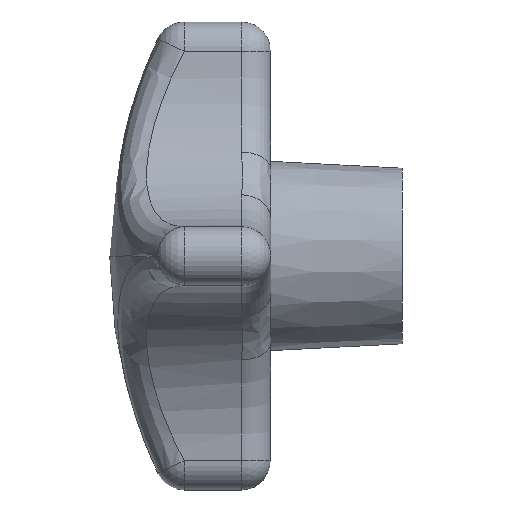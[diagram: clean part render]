
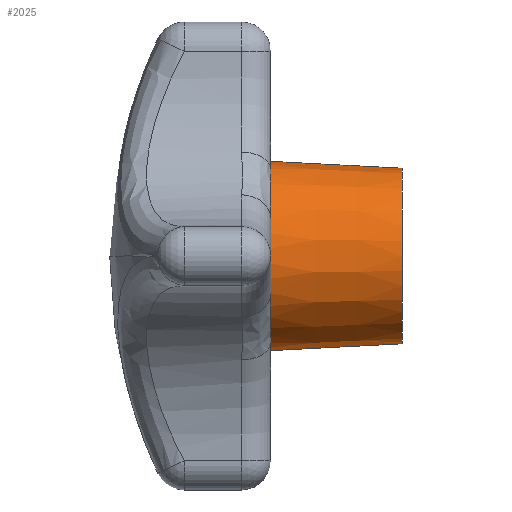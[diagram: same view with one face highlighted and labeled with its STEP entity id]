
A CAD part, left-side view. The second image highlights one B-rep face of the part: STEP entity #2025.
In plain terms, the highlighted conical face has half-angle 3 degrees and reference radius 6 mm.
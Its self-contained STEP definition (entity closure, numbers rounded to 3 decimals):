
#1252 = CARTESIAN_POINT ( 'NONE',  ( -2.546, 0., -5.95 ) ) ;
#1321 = LINE ( 'NONE', #1387, #1386 ) ;
#1322 = CARTESIAN_POINT ( 'NONE',  ( 0., 0., 6.472 ) ) ;
#1372 = CARTESIAN_POINT ( 'NONE',  ( 0., 0., -6.472 ) ) ;
#1373 = DIRECTION ( 'NONE',  ( 0., 0.999, -0.052 ) ) ;
#1374 = VECTOR ( 'NONE', #1373, 1000. ) ;
#1375 = CARTESIAN_POINT ( 'NONE',  ( 0., -9., -6. ) ) ;
#1376 = LINE ( 'NONE', #1375, #1374 ) ;
#1377 = CARTESIAN_POINT ( 'NONE',  ( 0., -9., -6. ) ) ;
#1381 = CARTESIAN_POINT ( 'NONE',  ( 0., -9., 6. ) ) ;
#1385 = DIRECTION ( 'NONE',  ( 0., 0.999, 0.052 ) ) ;
#1386 = VECTOR ( 'NONE', #1385, 1000. ) ;
#1387 = CARTESIAN_POINT ( 'NONE',  ( 0., -9., 6. ) ) ;
#1388 = AXIS2_PLACEMENT_3D ( 'NONE', #1452, #1451, #1450 ) ;
#1389 = CIRCLE ( 'NONE', #1388, 6.472 ) ;
#1450 = DIRECTION ( 'NONE',  ( 0., 0., 1. ) ) ;
#1451 = DIRECTION ( 'NONE',  ( 0., 1., 0. ) ) ;
#1452 = CARTESIAN_POINT ( 'NONE',  ( 0., 0., 0. ) ) ;
#1455 = CARTESIAN_POINT ( 'NONE',  ( -2.546, 0., 5.95 ) ) ;
#1456 = DIRECTION ( 'NONE',  ( 0., 0., 1. ) ) ;
#1457 = DIRECTION ( 'NONE',  ( 0., 1., 0. ) ) ;
#1458 = CARTESIAN_POINT ( 'NONE',  ( 0., 0., 0. ) ) ;
#1459 = AXIS2_PLACEMENT_3D ( 'NONE', #1458, #1457, #1456 ) ;
#1488 = CIRCLE ( 'NONE', #1459, 6.472 ) ;
#1950 = ORIENTED_EDGE ( 'NONE', *, *, #2230, .F. ) ;
#1953 = ORIENTED_EDGE ( 'NONE', *, *, #2214, .F. ) ;
#1958 = ORIENTED_EDGE ( 'NONE', *, *, #2179, .T. ) ;
#1965 = VERTEX_POINT ( 'NONE', #3067 ) ;
#1969 = VERTEX_POINT ( 'NONE', #3066 ) ;
#1978 = EDGE_CURVE ( 'NONE', #2120, #1965, #3064, .T. ) ;
#1993 = EDGE_CURVE ( 'NONE', #1969, #2231, #3147, .T. ) ;
#1994 = ORIENTED_EDGE ( 'NONE', *, *, #1993, .F. ) ;
#2020 = EDGE_CURVE ( 'NONE', #2182, #2181, #3142, .T. ) ;
#2021 = EDGE_LOOP ( 'NONE', ( #2024, #2026, #1958, #1950, #1994, #2225, #2226, #1953 ) ) ;
#2024 = ORIENTED_EDGE ( 'NONE', *, *, #2184, .F. ) ;
#2025 = ADVANCED_FACE ( 'NONE', ( #3137 ), #3136, .T. ) ;
#2026 = ORIENTED_EDGE ( 'NONE', *, *, #2020, .T. ) ;
#2031 = EDGE_CURVE ( 'NONE', #1965, #1969, #3134, .T. ) ;
#2120 = VERTEX_POINT ( 'NONE', #1252 ) ;
#2177 = VERTEX_POINT ( 'NONE', #1322 ) ;
#2179 = EDGE_CURVE ( 'NONE', #2181, #2177, #1321, .T. ) ;
#2181 = VERTEX_POINT ( 'NONE', #1381 ) ;
#2182 = VERTEX_POINT ( 'NONE', #1377 ) ;
#2184 = EDGE_CURVE ( 'NONE', #2182, #2185, #1376, .T. ) ;
#2185 = VERTEX_POINT ( 'NONE', #1372 ) ;
#2214 = EDGE_CURVE ( 'NONE', #2185, #2120, #1389, .T. ) ;
#2225 = ORIENTED_EDGE ( 'NONE', *, *, #2031, .F. ) ;
#2226 = ORIENTED_EDGE ( 'NONE', *, *, #1978, .F. ) ;
#2230 = EDGE_CURVE ( 'NONE', #2231, #2177, #1488, .T. ) ;
#2231 = VERTEX_POINT ( 'NONE', #1455 ) ;
#3060 = DIRECTION ( 'NONE',  ( 0., 0., 1. ) ) ;
#3061 = DIRECTION ( 'NONE',  ( 0., 1., 0. ) ) ;
#3062 = CARTESIAN_POINT ( 'NONE',  ( 0., 0., 0. ) ) ;
#3063 = AXIS2_PLACEMENT_3D ( 'NONE', #3062, #3061, #3060 ) ;
#3064 = CIRCLE ( 'NONE', #3063, 6.472 ) ;
#3066 = CARTESIAN_POINT ( 'NONE',  ( -5.95, 0., 2.546 ) ) ;
#3067 = CARTESIAN_POINT ( 'NONE',  ( -5.95, 0., -2.546 ) ) ;
#3127 = DIRECTION ( 'NONE',  ( 0., 0., 1. ) ) ;
#3128 = DIRECTION ( 'NONE',  ( 0., 1., 0. ) ) ;
#3129 = CARTESIAN_POINT ( 'NONE',  ( 0., 0., 0. ) ) ;
#3130 = AXIS2_PLACEMENT_3D ( 'NONE', #3129, #3128, #3127 ) ;
#3131 = DIRECTION ( 'NONE',  ( 0., 0., 1. ) ) ;
#3132 = DIRECTION ( 'NONE',  ( 0., 1., 0. ) ) ;
#3133 = AXIS2_PLACEMENT_3D ( 'NONE', #3135, #3132, #3131 ) ;
#3134 = CIRCLE ( 'NONE', #3130, 6.472 ) ;
#3135 = CARTESIAN_POINT ( 'NONE',  ( 0., -9., 0. ) ) ;
#3136 = CONICAL_SURFACE ( 'NONE', #3133, 6., 0.052 ) ;
#3137 = FACE_OUTER_BOUND ( 'NONE', #2021, .T. ) ;
#3138 = DIRECTION ( 'NONE',  ( 0., 0., 1. ) ) ;
#3139 = DIRECTION ( 'NONE',  ( 0., 1., 0. ) ) ;
#3140 = CARTESIAN_POINT ( 'NONE',  ( 0., -9., 0. ) ) ;
#3141 = AXIS2_PLACEMENT_3D ( 'NONE', #3140, #3139, #3138 ) ;
#3142 = CIRCLE ( 'NONE', #3141, 6. ) ;
#3143 = DIRECTION ( 'NONE',  ( 0., 0., 1. ) ) ;
#3144 = DIRECTION ( 'NONE',  ( 0., 1., 0. ) ) ;
#3145 = CARTESIAN_POINT ( 'NONE',  ( 0., 0., 0. ) ) ;
#3146 = AXIS2_PLACEMENT_3D ( 'NONE', #3145, #3144, #3143 ) ;
#3147 = CIRCLE ( 'NONE', #3146, 6.472 ) ;
